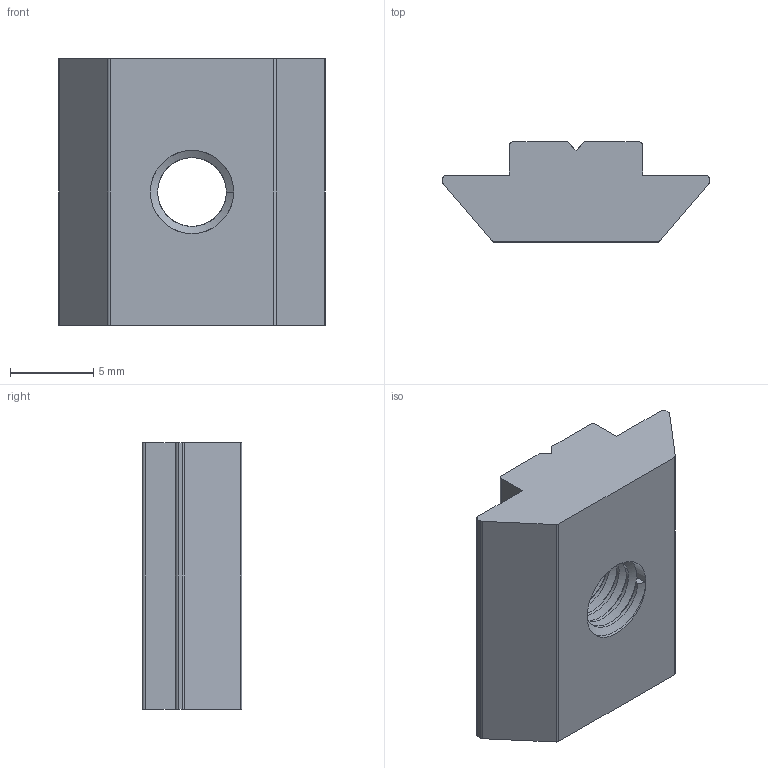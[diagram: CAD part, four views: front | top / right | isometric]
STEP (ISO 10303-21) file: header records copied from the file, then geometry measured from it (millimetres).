
FILE_DESCRIPTION (( 'STEP AP214' ), '1' );
FILE_NAME ('8-3-M5.STEP', '2019-01-12T15:38:41', ( '' ), ( '' ), 'SwSTEP 2.0', 'SolidWorks 2018', '' );
FILE_SCHEMA (( 'AUTOMOTIVE_DESIGN' ));
Length unit declared in the file: millimetre
Products named in the file (1): 8-3-M5
Bounding box: 16 x 6 x 16 mm (x, y, z)
Volume: 1010.3 mm3; surface area: 878.1 mm2
Topology: 1 solids, 1 shells, 51 faces, 146 edges, 96 vertices
Faces by surface type: cylinder 25, plane 18, bspline 5, cone 3
Entity records: 3286 total; most frequent: CARTESIAN_POINT 2053, ORIENTED_EDGE 292, DIRECTION 210, EDGE_CURVE 146, VERTEX_POINT 96, AXIS2_PLACEMENT_3D 70, LINE 70, VECTOR 70
